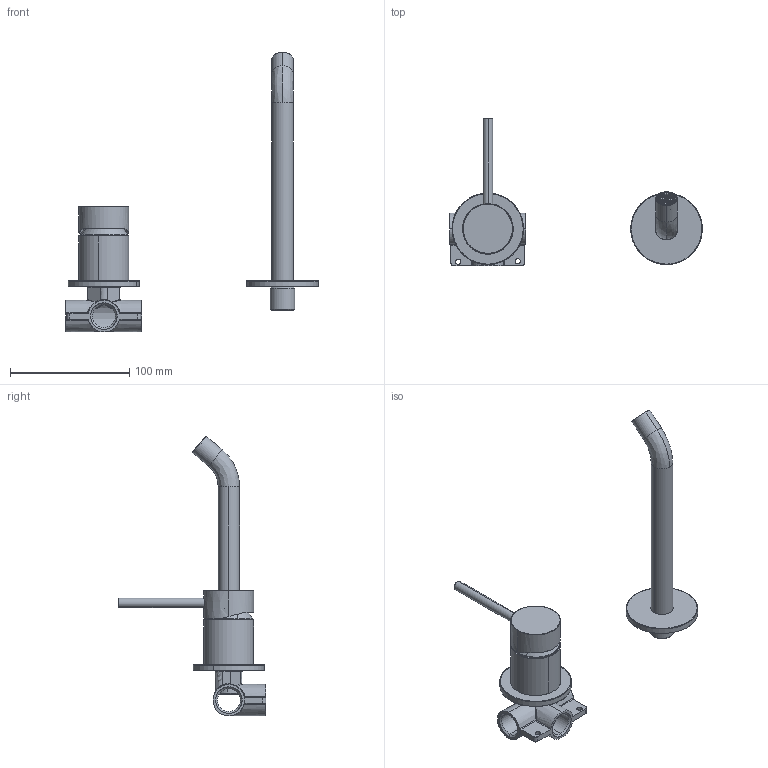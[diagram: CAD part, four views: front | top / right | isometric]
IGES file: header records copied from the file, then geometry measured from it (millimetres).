
Start section: SolidWorks IGES file using analytic representation for surfaces
Global section: file name: \\Sanitexml110\archivi\Fulvio\SolidWorks\PROGETTI\Rubinetteria\Serie INOX\FILE X RENDERING\2021\TH220\TH220-BOCCA CORTA.IGS; native system: SolidWorks 2021; preprocessor: SolidWorks 2021; author: cadcam2; date: 211227.114235; units: millimetre
Bounding box: 212 x 123.86 x 234.89 mm (x, y, z)
Surface area: 55221 mm2 (no closed solid volume)
Topology: 0 solids, 0 shells, 547 faces, 5983 edges, 5917 vertices
Faces by surface type: revolution 331, bspline 216
